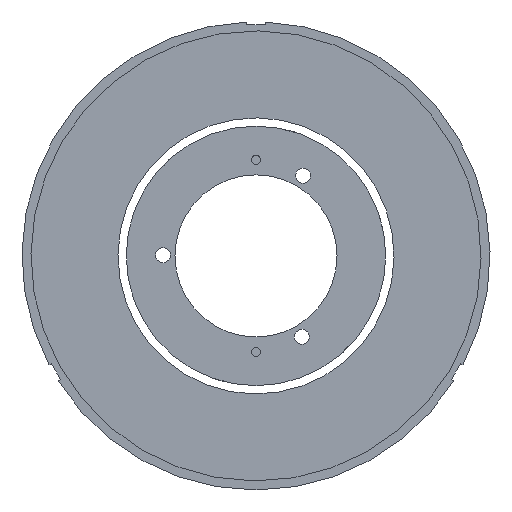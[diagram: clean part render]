
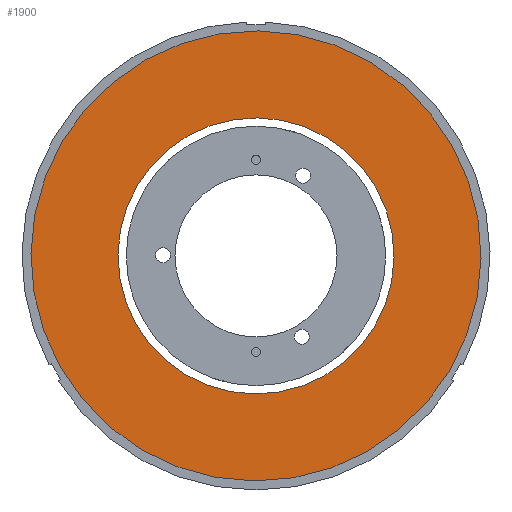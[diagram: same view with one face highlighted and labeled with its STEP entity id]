
A CAD part, front view. The second image highlights one B-rep face of the part: STEP entity #1900.
In plain terms, the highlighted planar face has unit normal (0, -1, 0).
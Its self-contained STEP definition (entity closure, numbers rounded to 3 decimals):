
#19 = DIRECTION ( 'NONE',  ( 0., 1., 0. ) ) ;
#64 = CIRCLE ( 'NONE', #2445, 37.5 ) ;
#74 = DIRECTION ( 'NONE',  ( 0., 1., 0. ) ) ;
#156 = EDGE_LOOP ( 'NONE', ( #2798, #2235 ) ) ;
#331 = VERTEX_POINT ( 'NONE', #2990 ) ;
#460 = CARTESIAN_POINT ( 'NONE',  ( 5.252, 11.879, 36.931 ) ) ;
#464 = ORIENTED_EDGE ( 'NONE', *, *, #2910, .T. ) ;
#490 = AXIS2_PLACEMENT_3D ( 'NONE', #460, #1459, #4268 ) ;
#494 = AXIS2_PLACEMENT_3D ( 'NONE', #3183, #19, #3135 ) ;
#764 = CARTESIAN_POINT ( 'NONE',  ( -1.624, 11.879, 0.067 ) ) ;
#780 = DIRECTION ( 'NONE',  ( -0.983, 0., 0.183 ) ) ;
#824 = FACE_BOUND ( 'NONE', #2199, .T. ) ;
#872 = FACE_OUTER_BOUND ( 'NONE', #156, .T. ) ;
#963 = EDGE_CURVE ( 'NONE', #3730, #331, #1169, .T. ) ;
#1087 = CARTESIAN_POINT ( 'NONE',  ( 5.252, 11.879, 36.931 ) ) ;
#1169 = CIRCLE ( 'NONE', #3543, 23. ) ;
#1176 = CARTESIAN_POINT ( 'NONE',  ( 1.035, 11.879, 14.321 ) ) ;
#1351 = CARTESIAN_POINT ( 'NONE',  ( 5.252, 11.879, 36.931 ) ) ;
#1459 = DIRECTION ( 'NONE',  ( 0., 1., 0. ) ) ;
#1900 = ADVANCED_FACE ( 'NONE', ( #824, #872 ), #3625, .F. ) ;
#2174 = VERTEX_POINT ( 'NONE', #4118 ) ;
#2199 = EDGE_LOOP ( 'NONE', ( #464, #2813 ) ) ;
#2205 = CARTESIAN_POINT ( 'NONE',  ( 5.252, 11.879, 36.931 ) ) ;
#2235 = ORIENTED_EDGE ( 'NONE', *, *, #3751, .F. ) ;
#2304 = CIRCLE ( 'NONE', #490, 23. ) ;
#2340 = VERTEX_POINT ( 'NONE', #764 ) ;
#2352 = DIRECTION ( 'NONE',  ( -0.183, 0., -0.983 ) ) ;
#2445 = AXIS2_PLACEMENT_3D ( 'NONE', #1087, #74, #3495 ) ;
#2474 = AXIS2_PLACEMENT_3D ( 'NONE', #2205, #3910, #780 ) ;
#2798 = ORIENTED_EDGE ( 'NONE', *, *, #3312, .F. ) ;
#2813 = ORIENTED_EDGE ( 'NONE', *, *, #963, .T. ) ;
#2910 = EDGE_CURVE ( 'NONE', #331, #3730, #2304, .T. ) ;
#2990 = CARTESIAN_POINT ( 'NONE',  ( 9.469, 11.879, 59.541 ) ) ;
#3022 = CIRCLE ( 'NONE', #494, 37.5 ) ;
#3135 = DIRECTION ( 'NONE',  ( -0.183, 0., -0.983 ) ) ;
#3183 = CARTESIAN_POINT ( 'NONE',  ( 5.252, 11.879, 36.931 ) ) ;
#3312 = EDGE_CURVE ( 'NONE', #2174, #2340, #3022, .T. ) ;
#3493 = DIRECTION ( 'NONE',  ( 0., 1., 0. ) ) ;
#3495 = DIRECTION ( 'NONE',  ( -0.183, 0., -0.983 ) ) ;
#3543 = AXIS2_PLACEMENT_3D ( 'NONE', #1351, #3493, #2352 ) ;
#3625 = PLANE ( 'NONE',  #2474 ) ;
#3730 = VERTEX_POINT ( 'NONE', #1176 ) ;
#3751 = EDGE_CURVE ( 'NONE', #2340, #2174, #64, .T. ) ;
#3910 = DIRECTION ( 'NONE',  ( 0., 1., 0. ) ) ;
#4118 = CARTESIAN_POINT ( 'NONE',  ( 12.127, 11.879, 73.796 ) ) ;
#4268 = DIRECTION ( 'NONE',  ( -0.183, 0., -0.983 ) ) ;
